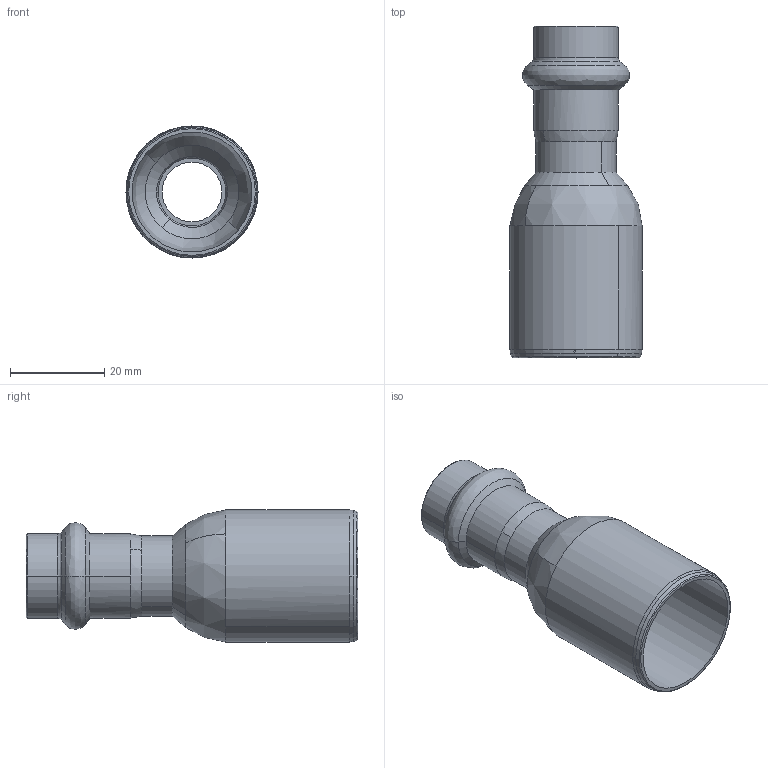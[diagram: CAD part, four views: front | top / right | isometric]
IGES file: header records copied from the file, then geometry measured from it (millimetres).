
Start section: Elysium IGES Interface
Global section: file name: C:\Users\Wallenburg\Desktop\3d modellen sudo\S-Pr VP\SP6243V\6243VW2815.igs; native system: CoCreate Modeling 17.00A  17-Jun-2010; preprocessor: CoCreate IGES_3D V2.2; author: Unknown; organization: Unknown; date: 20130124.091806; units: millimetre
Bounding box: 28 x 70.33 x 28 mm (x, y, z)
Volume: 6953.7 mm3; surface area: 10138.6 mm2
Topology: 1 solids, 1 shells, 60 faces, 144 edges, 88 vertices
Faces by surface type: bspline 60
